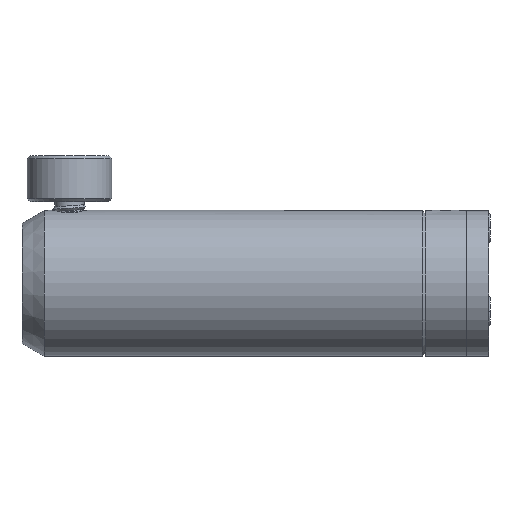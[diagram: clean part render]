
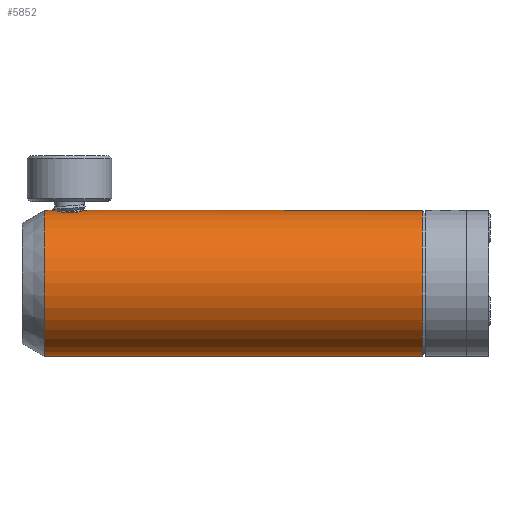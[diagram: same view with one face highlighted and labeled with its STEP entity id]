
A CAD part, left-side view. The second image highlights one B-rep face of the part: STEP entity #5852.
In plain terms, the highlighted cylindrical face has radius 12.497 mm (diameter 24.994 mm), a partial arc.
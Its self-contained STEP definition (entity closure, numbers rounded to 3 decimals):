
#3859=DIRECTION('',(0.,1.,0.));
#3860=VECTOR('',#3859,57.402);
#3861=CARTESIAN_POINT('',(-28.909,-42.492,
23.27));
#3862=LINE('',#3861,#3860);
#3863=CARTESIAN_POINT('',(-28.909,14.91,23.27));
#3895=DIRECTION('',(0.,-1.,0.));
#3896=VECTOR('',#3895,64.72);
#3897=CARTESIAN_POINT('',(-28.909,22.228,
-1.723));
#3898=LINE('',#3897,#3896);
#3907=CARTESIAN_POINT('',(-28.909,-42.492,
10.773));
#3908=DIRECTION('',(0.,1.,0.));
#3909=DIRECTION('',(0.,0.,-1.));
#3910=AXIS2_PLACEMENT_3D('',#3907,#3908,#3909);
#3912=DIRECTION('',(0.,-1.,0.));
#3913=VECTOR('',#3912,1.318);
#3914=CARTESIAN_POINT('',(-28.909,22.228,23.27));
#3915=LINE('',#3914,#3913);
#3916=CARTESIAN_POINT('',(-28.909,20.91,23.27));
#3917=CARTESIAN_POINT('',(-29.104,20.91,23.27));
#3918=CARTESIAN_POINT('',(-29.489,20.872,23.261));
#3919=CARTESIAN_POINT('',(-30.059,20.701,23.221));
#3920=CARTESIAN_POINT('',(-30.583,20.422,23.161));
#3921=CARTESIAN_POINT('',(-31.046,20.042,23.089));
#3922=CARTESIAN_POINT('',(-31.422,19.583,23.016));
#3923=CARTESIAN_POINT('',(-31.702,19.056,22.955));
#3924=CARTESIAN_POINT('',(-31.871,18.489,22.914));
#3925=CARTESIAN_POINT('',(-31.909,18.105,22.905));
#3926=CARTESIAN_POINT('',(-31.909,17.91,22.905));
#3928=CARTESIAN_POINT('',(-31.909,17.91,22.905));
#3929=CARTESIAN_POINT('',(-31.909,17.714,22.905));
#3930=CARTESIAN_POINT('',(-31.871,17.33,22.914));
#3931=CARTESIAN_POINT('',(-31.702,16.762,22.955));
#3932=CARTESIAN_POINT('',(-31.422,16.236,23.016));
#3933=CARTESIAN_POINT('',(-31.046,15.777,23.089));
#3934=CARTESIAN_POINT('',(-30.583,15.397,23.161));
#3935=CARTESIAN_POINT('',(-30.06,15.118,23.221));
#3936=CARTESIAN_POINT('',(-29.489,14.947,23.261));
#3937=CARTESIAN_POINT('',(-29.104,14.91,23.27));
#3938=CARTESIAN_POINT('',(-28.909,14.91,23.27));
#3944=CARTESIAN_POINT('',(-28.909,22.228,10.773));
#3945=DIRECTION('',(0.,1.,0.));
#3946=DIRECTION('',(0.,0.,-1.));
#3947=AXIS2_PLACEMENT_3D('',#3944,#3945,#3946);
#5654=CARTESIAN_POINT('',(-28.909,22.228,23.27));
#5655=VERTEX_POINT('',#5654);
#5656=CARTESIAN_POINT('',(-28.909,22.228,
-1.723));
#5657=VERTEX_POINT('',#5656);
#5670=VERTEX_POINT('',#3863);
#5672=VERTEX_POINT('',#3916);
#5673=VERTEX_POINT('',#3926);
#5767=CARTESIAN_POINT('',(-28.909,-42.492,
23.27));
#5768=CARTESIAN_POINT('',(-28.909,-42.492,
-1.723));
#5769=VERTEX_POINT('',#5767);
#5770=VERTEX_POINT('',#5768);
#5835=CARTESIAN_POINT('',(-28.909,26.038,10.773));
#5836=DIRECTION('',(0.,-1.,0.));
#5837=DIRECTION('',(0.,0.,-1.));
#5838=AXIS2_PLACEMENT_3D('',#5835,#5836,#5837);
#5839=CYLINDRICAL_SURFACE('',#5838,12.497);
#5840=ORIENTED_EDGE('',*,*,#5826,.F.);
#5841=ORIENTED_EDGE('',*,*,#5801,.F.);
#5843=ORIENTED_EDGE('',*,*,#5842,.T.);
#5844=ORIENTED_EDGE('',*,*,#5797,.T.);
#5846=ORIENTED_EDGE('',*,*,#5845,.T.);
#5848=ORIENTED_EDGE('',*,*,#5847,.T.);
#5849=ORIENTED_EDGE('',*,*,#5791,.F.);
#5850=EDGE_LOOP('',(#5840,#5841,#5843,#5844,#5846,#5848,#5849));
#5851=FACE_OUTER_BOUND('',#5850,.F.);
#5852=ADVANCED_FACE('',(#5851),#5839,.T.);
#3911=CIRCLE('',#3910,12.497);
#3927=B_SPLINE_CURVE_WITH_KNOTS('',3,(#3916,#3917,#3918,#3919,#3920,#3921,#3922,
#3923,#3924,#3925,#3926),.UNSPECIFIED.,.F.,.F.,(4,1,1,1,1,1,1,1,4),(0.,
0.125,0.25,0.375,0.5,0.625,0.75,0.875,1.),.UNSPECIFIED.);
#3939=B_SPLINE_CURVE_WITH_KNOTS('',3,(#3928,#3929,#3930,#3931,#3932,#3933,#3934,
#3935,#3936,#3937,#3938),.UNSPECIFIED.,.F.,.F.,(4,1,1,1,1,1,1,1,4),(0.,
0.125,0.25,0.375,0.5,0.625,0.75,0.875,1.),.UNSPECIFIED.);
#3948=CIRCLE('',#3947,12.497);
#5791=EDGE_CURVE('',#5769,#5670,#3862,.T.);
#5797=EDGE_CURVE('',#5655,#5672,#3915,.T.);
#5801=EDGE_CURVE('',#5657,#5770,#3898,.T.);
#5826=EDGE_CURVE('',#5770,#5769,#3911,.T.);
#5842=EDGE_CURVE('',#5657,#5655,#3948,.T.);
#5845=EDGE_CURVE('',#5672,#5673,#3927,.T.);
#5847=EDGE_CURVE('',#5673,#5670,#3939,.T.);
